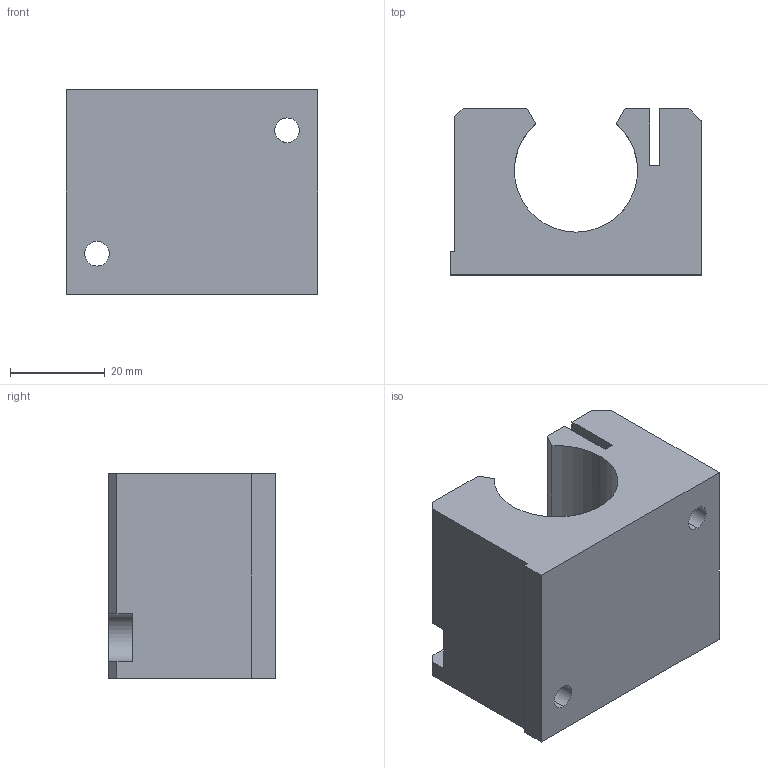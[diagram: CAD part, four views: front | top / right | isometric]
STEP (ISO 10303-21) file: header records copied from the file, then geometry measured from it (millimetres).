
FILE_DESCRIPTION (( 'STEP AP214' ), '1' );
FILE_NAME ('KGOE38-16.step', '2020-03-04T13:21:58', ( '' ), ( '' ), 'SwSTEP 2.0', 'SolidWorks 2019', '' );
FILE_SCHEMA (( 'AUTOMOTIVE_DESIGN' ));
Length unit declared in the file: millimetre
Products named in the file (1): KGOE38-16
Bounding box: 53 x 35 x 43 mm (x, y, z)
Volume: 50029.1 mm3; surface area: 14693.5 mm2
Topology: 1 solids, 1 shells, 53 faces, 156 edges, 102 vertices
Faces by surface type: plane 30, cylinder 21, cone 2
Entity records: 2041 total; most frequent: CARTESIAN_POINT 431, ORIENTED_EDGE 312, DIRECTION 302, EDGE_CURVE 156, LINE 108, VECTOR 108, VERTEX_POINT 102, AXIS2_PLACEMENT_3D 97
